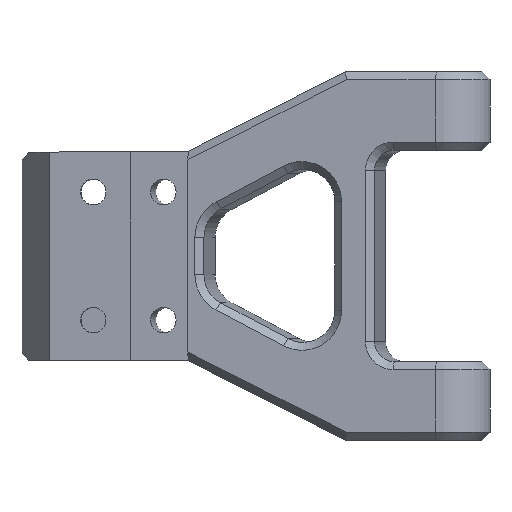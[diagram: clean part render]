
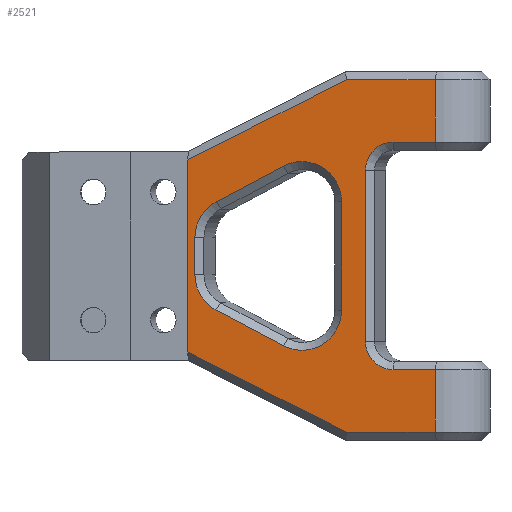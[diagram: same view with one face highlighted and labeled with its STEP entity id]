
A CAD part, top view. The second image highlights one B-rep face of the part: STEP entity #2521.
In plain terms, the highlighted planar face has unit normal (-0.139, 0, 0.99).
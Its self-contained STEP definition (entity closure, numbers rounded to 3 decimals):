
#60=FACE_BOUND('',#353,.T.);
#82=CIRCLE('',#2673,3.5);
#84=CIRCLE('',#2676,3.5);
#93=CIRCLE('',#2698,5.);
#94=CIRCLE('',#2699,5.);
#95=CIRCLE('',#2700,5.);
#96=CIRCLE('',#2701,5.);
#205=FACE_OUTER_BOUND('',#352,.T.);
#352=EDGE_LOOP('',(#1785,#1786,#1787,#1788,#1789,#1790,#1791,#1792,#1793,
#1794,#1795,#1796));
#353=EDGE_LOOP('',(#1797,#1798,#1799,#1800,#1801,#1802,#1803,#1804));
#483=LINE('',#3596,#755);
#485=LINE('',#3600,#757);
#508=LINE('',#3652,#780);
#510=LINE('',#3656,#782);
#530=LINE('',#3702,#802);
#535=LINE('',#3720,#807);
#540=LINE('',#3729,#812);
#562=LINE('',#3787,#834);
#563=LINE('',#3789,#835);
#564=LINE('',#3790,#836);
#565=LINE('',#3795,#837);
#566=LINE('',#3799,#838);
#567=LINE('',#3803,#839);
#568=LINE('',#3806,#840);
#755=VECTOR('',#2877,10.);
#757=VECTOR('',#2881,10.);
#780=VECTOR('',#2926,10.);
#782=VECTOR('',#2930,10.);
#802=VECTOR('',#2972,10.);
#807=VECTOR('',#2991,10.);
#812=VECTOR('',#2998,10.);
#834=VECTOR('',#3056,10.);
#835=VECTOR('',#3059,10.);
#836=VECTOR('',#3060,10.);
#837=VECTOR('',#3063,10.);
#838=VECTOR('',#3066,10.);
#839=VECTOR('',#3069,10.);
#840=VECTOR('',#3072,10.);
#1027=VERTEX_POINT('',#3593);
#1028=VERTEX_POINT('',#3595);
#1029=VERTEX_POINT('',#3599);
#1046=VERTEX_POINT('',#3649);
#1047=VERTEX_POINT('',#3651);
#1048=VERTEX_POINT('',#3655);
#1062=VERTEX_POINT('',#3699);
#1063=VERTEX_POINT('',#3701);
#1065=VERTEX_POINT('',#3707);
#1068=VERTEX_POINT('',#3715);
#1069=VERTEX_POINT('',#3719);
#1072=VERTEX_POINT('',#3727);
#1091=VERTEX_POINT('',#3791);
#1092=VERTEX_POINT('',#3792);
#1093=VERTEX_POINT('',#3794);
#1094=VERTEX_POINT('',#3796);
#1095=VERTEX_POINT('',#3798);
#1096=VERTEX_POINT('',#3800);
#1097=VERTEX_POINT('',#3802);
#1098=VERTEX_POINT('',#3804);
#1263=EDGE_CURVE('',#1027,#1028,#483,.T.);
#1265=EDGE_CURVE('',#1028,#1029,#485,.T.);
#1291=EDGE_CURVE('',#1046,#1047,#508,.T.);
#1293=EDGE_CURVE('',#1047,#1048,#510,.T.);
#1316=EDGE_CURVE('',#1062,#1063,#530,.T.);
#1321=EDGE_CURVE('',#1063,#1065,#82,.T.);
#1324=EDGE_CURVE('',#1068,#1062,#84,.T.);
#1325=EDGE_CURVE('',#1065,#1069,#535,.T.);
#1330=EDGE_CURVE('',#1072,#1068,#540,.T.);
#1360=EDGE_CURVE('',#1069,#1046,#562,.T.);
#1361=EDGE_CURVE('',#1048,#1027,#563,.T.);
#1362=EDGE_CURVE('',#1029,#1072,#564,.T.);
#1363=EDGE_CURVE('',#1091,#1092,#93,.T.);
#1364=EDGE_CURVE('',#1093,#1091,#565,.T.);
#1365=EDGE_CURVE('',#1094,#1093,#94,.T.);
#1366=EDGE_CURVE('',#1095,#1094,#566,.T.);
#1367=EDGE_CURVE('',#1096,#1095,#95,.T.);
#1368=EDGE_CURVE('',#1097,#1096,#567,.T.);
#1369=EDGE_CURVE('',#1098,#1097,#96,.T.);
#1370=EDGE_CURVE('',#1092,#1098,#568,.T.);
#1785=ORIENTED_EDGE('',*,*,#1263,.F.);
#1786=ORIENTED_EDGE('',*,*,#1361,.F.);
#1787=ORIENTED_EDGE('',*,*,#1293,.F.);
#1788=ORIENTED_EDGE('',*,*,#1291,.F.);
#1789=ORIENTED_EDGE('',*,*,#1360,.F.);
#1790=ORIENTED_EDGE('',*,*,#1325,.F.);
#1791=ORIENTED_EDGE('',*,*,#1321,.F.);
#1792=ORIENTED_EDGE('',*,*,#1316,.F.);
#1793=ORIENTED_EDGE('',*,*,#1324,.F.);
#1794=ORIENTED_EDGE('',*,*,#1330,.F.);
#1795=ORIENTED_EDGE('',*,*,#1362,.F.);
#1796=ORIENTED_EDGE('',*,*,#1265,.F.);
#1797=ORIENTED_EDGE('',*,*,#1363,.F.);
#1798=ORIENTED_EDGE('',*,*,#1364,.F.);
#1799=ORIENTED_EDGE('',*,*,#1365,.F.);
#1800=ORIENTED_EDGE('',*,*,#1366,.F.);
#1801=ORIENTED_EDGE('',*,*,#1367,.F.);
#1802=ORIENTED_EDGE('',*,*,#1368,.F.);
#1803=ORIENTED_EDGE('',*,*,#1369,.F.);
#1804=ORIENTED_EDGE('',*,*,#1370,.F.);
#2403=PLANE('',#2697);
#2521=ADVANCED_FACE('',(#205,#60),#2403,.T.);
#2673=AXIS2_PLACEMENT_3D('',#3711,#2980,#2981);
#2676=AXIS2_PLACEMENT_3D('',#3717,#2987,#2988);
#2697=AXIS2_PLACEMENT_3D('',#3788,#3057,#3058);
#2698=AXIS2_PLACEMENT_3D('',#3793,#3061,#3062);
#2699=AXIS2_PLACEMENT_3D('',#3797,#3064,#3065);
#2700=AXIS2_PLACEMENT_3D('',#3801,#3067,#3068);
#2701=AXIS2_PLACEMENT_3D('',#3805,#3070,#3071);
#2877=DIRECTION('',(0.886,0.447,0.124));
#2881=DIRECTION('',(0.99,0.,0.139));
#2926=DIRECTION('',(-0.99,0.,-0.139));
#2930=DIRECTION('',(-0.886,0.447,-0.124));
#2972=DIRECTION('',(0.,-1.,0.));
#2980=DIRECTION('center_axis',(-0.139,0.,
0.99));
#2981=DIRECTION('ref_axis',(-0.7,-0.707,-0.098));
#2987=DIRECTION('center_axis',(-0.139,0.,
0.99));
#2988=DIRECTION('ref_axis',(-0.7,0.707,-0.098));
#2991=DIRECTION('',(0.99,0.,0.139));
#2998=DIRECTION('',(-0.99,0.,-0.139));
#3056=DIRECTION('',(0.,-1.,0.));
#3057=DIRECTION('center_axis',(-0.139,0.,
0.99));
#3058=DIRECTION('ref_axis',(-0.99,0.,-0.139));
#3059=DIRECTION('',(0.,1.,0.));
#3060=DIRECTION('',(0.,-1.,0.));
#3061=DIRECTION('center_axis',(-0.139,0.,
0.99));
#3062=DIRECTION('ref_axis',(-0.847,-0.517,-0.119));
#3063=DIRECTION('',(0.,-1.,0.));
#3064=DIRECTION('center_axis',(-0.139,0.,
0.99));
#3065=DIRECTION('ref_axis',(-0.847,0.517,-0.119));
#3066=DIRECTION('',(-0.877,-0.465,-0.123));
#3067=DIRECTION('center_axis',(-0.139,0.,
0.99));
#3068=DIRECTION('ref_axis',(0.512,0.856,0.072));
#3069=DIRECTION('',(0.,1.,0.));
#3070=DIRECTION('center_axis',(-0.139,0.,
0.99));
#3071=DIRECTION('ref_axis',(0.512,-0.856,0.072));
#3072=DIRECTION('',(0.877,-0.465,0.123));
#3593=CARTESIAN_POINT('',(71.487,11.982,48.273));
#3595=CARTESIAN_POINT('',(91.328,22.,51.061));
#3596=CARTESIAN_POINT('',(87.642,20.139,50.543));
#3599=CARTESIAN_POINT('',(102.432,22.,52.622));
#3600=CARTESIAN_POINT('',(87.245,22.,50.487));
#3649=CARTESIAN_POINT('',(102.432,-22.,52.622));
#3651=CARTESIAN_POINT('',(91.328,-22.,51.061));
#3652=CARTESIAN_POINT('',(87.245,-22.,50.487));
#3655=CARTESIAN_POINT('',(71.487,-11.982,48.273));
#3656=CARTESIAN_POINT('',(82.493,-17.539,49.82));
#3699=CARTESIAN_POINT('',(93.7,10.7,51.395));
#3701=CARTESIAN_POINT('',(93.7,-10.7,51.395));
#3702=CARTESIAN_POINT('',(93.7,0.,51.395));
#3707=CARTESIAN_POINT('',(97.166,-14.2,51.882));
#3711=CARTESIAN_POINT('Origin',(97.166,-10.7,51.882));
#3715=CARTESIAN_POINT('',(97.166,14.2,51.882));
#3717=CARTESIAN_POINT('Origin',(97.166,10.7,51.882));
#3719=CARTESIAN_POINT('',(102.432,-14.2,52.622));
#3720=CARTESIAN_POINT('',(87.245,-14.2,50.487));
#3727=CARTESIAN_POINT('',(102.432,14.2,52.622));
#3729=CARTESIAN_POINT('',(87.245,14.2,50.487));
#3787=CARTESIAN_POINT('',(102.432,23.,52.622));
#3788=CARTESIAN_POINT('Origin',(98.687,13.,52.096));
#3789=CARTESIAN_POINT('',(71.487,6.5,48.273));
#3790=CARTESIAN_POINT('',(102.432,23.,52.622));
#3791=CARTESIAN_POINT('',(72.41,-2.322,48.403));
#3792=CARTESIAN_POINT('',(75.06,-6.749,48.775));
#3793=CARTESIAN_POINT('Origin',(77.361,-2.322,49.098));
#3794=CARTESIAN_POINT('',(72.41,2.322,48.403));
#3795=CARTESIAN_POINT('',(72.41,2.,48.403));
#3796=CARTESIAN_POINT('',(75.06,6.749,48.775));
#3797=CARTESIAN_POINT('Origin',(77.361,2.322,49.098));
#3798=CARTESIAN_POINT('',(83.477,11.211,49.958));
#3799=CARTESIAN_POINT('',(90.641,15.009,50.965));
#3800=CARTESIAN_POINT('',(90.73,6.784,50.977));
#3801=CARTESIAN_POINT('Origin',(85.778,6.784,50.281));
#3802=CARTESIAN_POINT('',(90.73,-6.785,50.977));
#3803=CARTESIAN_POINT('',(90.73,8.1,50.977));
#3804=CARTESIAN_POINT('',(83.477,-11.212,49.958));
#3805=CARTESIAN_POINT('Origin',(85.778,-6.785,50.281));
#3806=CARTESIAN_POINT('',(85.343,-12.201,50.22));
